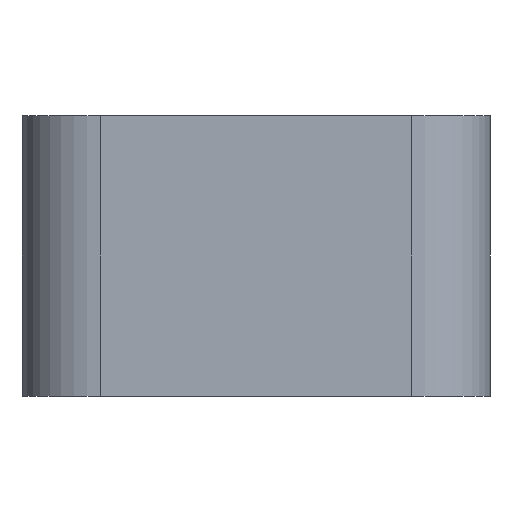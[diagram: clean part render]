
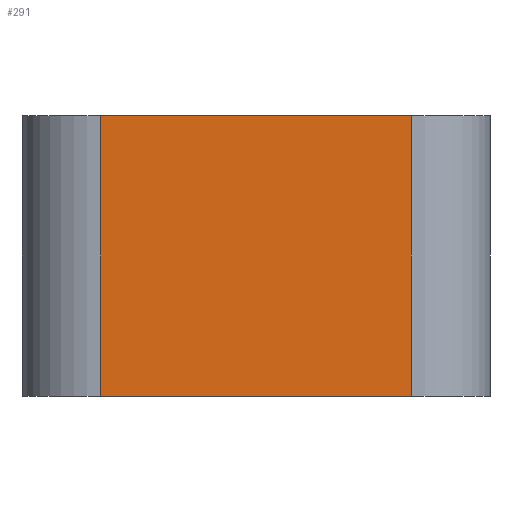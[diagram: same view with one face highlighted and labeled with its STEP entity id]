
A CAD part, left-side view. The second image highlights one B-rep face of the part: STEP entity #291.
In plain terms, the highlighted planar face has unit normal (-1, 0, 0).
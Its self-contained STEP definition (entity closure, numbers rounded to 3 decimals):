
#26=PLANE('',#334);
#39=FACE_OUTER_BOUND('',#54,.T.);
#54=EDGE_LOOP('',(#228,#229,#230,#231));
#81=LINE('',#484,#102);
#82=LINE('',#488,#103);
#83=LINE('',#490,#104);
#84=LINE('',#491,#105);
#102=VECTOR('',#399,1000.);
#103=VECTOR('',#404,1000.);
#104=VECTOR('',#405,1000.);
#105=VECTOR('',#406,1000.);
#147=VERTEX_POINT('',#481);
#148=VERTEX_POINT('',#483);
#149=VERTEX_POINT('',#487);
#150=VERTEX_POINT('',#489);
#180=EDGE_CURVE('',#148,#147,#81,.T.);
#182=EDGE_CURVE('',#147,#149,#82,.T.);
#183=EDGE_CURVE('',#150,#149,#83,.T.);
#184=EDGE_CURVE('',#148,#150,#84,.T.);
#228=ORIENTED_EDGE('',*,*,#182,.T.);
#229=ORIENTED_EDGE('',*,*,#183,.F.);
#230=ORIENTED_EDGE('',*,*,#184,.F.);
#231=ORIENTED_EDGE('',*,*,#180,.T.);
#291=ADVANCED_FACE('',(#39),#26,.F.);
#334=AXIS2_PLACEMENT_3D('',#486,#402,#403);
#399=DIRECTION('',(0.,0.,-1.));
#402=DIRECTION('center_axis',(1.,0.,0.));
#403=DIRECTION('ref_axis',(0.,0.,-1.));
#404=DIRECTION('',(0.,-1.,0.));
#405=DIRECTION('',(0.,0.,-1.));
#406=DIRECTION('',(0.,-1.,0.));
#481=CARTESIAN_POINT('',(-43.2,6.64,0.));
#483=CARTESIAN_POINT('',(-43.2,6.64,12.));
#484=CARTESIAN_POINT('',(-43.2,6.64,12.));
#486=CARTESIAN_POINT('Origin',(-43.2,-6.64,12.));
#487=CARTESIAN_POINT('',(-43.2,-6.64,0.));
#488=CARTESIAN_POINT('',(-43.2,-6.64,0.));
#489=CARTESIAN_POINT('',(-43.2,-6.64,12.));
#490=CARTESIAN_POINT('',(-43.2,-6.64,12.));
#491=CARTESIAN_POINT('',(-43.2,-6.64,12.));
